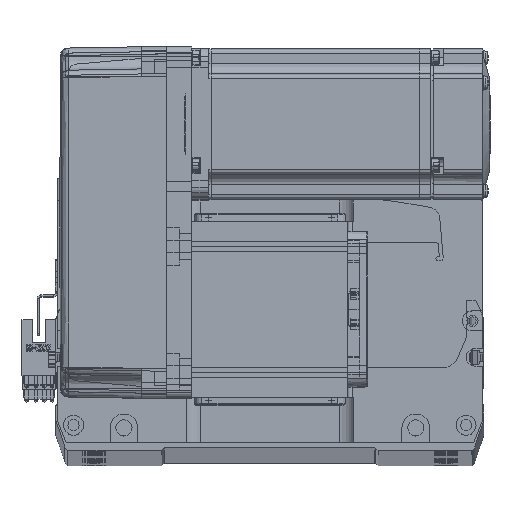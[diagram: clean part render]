
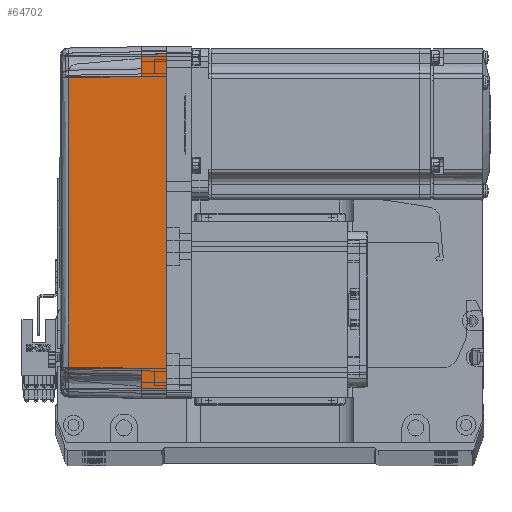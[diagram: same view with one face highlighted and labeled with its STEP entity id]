
A CAD part, top view. The second image highlights one B-rep face of the part: STEP entity #64702.
In plain terms, the highlighted planar face has unit normal (-0.018, 0, 1) as drawn and (0, 1, 0.017) by its records, which use the part's own axes.
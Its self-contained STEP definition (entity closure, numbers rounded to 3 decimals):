
#341 = ORIENTED_EDGE ( 'NONE', *, *, #64427, .F. ) ;
#818 = EDGE_CURVE ( 'NONE', #11578, #7593, #22248, .T. ) ;
#1826 = VERTEX_POINT ( 'NONE', #18968 ) ;
#3090 = CARTESIAN_POINT ( 'NONE',  ( 57.495, 35.32, 38.985 ) ) ;
#3742 = LINE ( 'NONE', #33053, #56070 ) ;
#5368 = EDGE_CURVE ( 'NONE', #11578, #45967, #15623, .T. ) ;
#6350 = VECTOR ( 'NONE', #46820, 1000. ) ;
#6586 = VERTEX_POINT ( 'NONE', #66704 ) ;
#7088 = VERTEX_POINT ( 'NONE', #23587 ) ;
#7593 = VERTEX_POINT ( 'NONE', #12230 ) ;
#8469 = LINE ( 'NONE', #41462, #32937 ) ;
#10851 = EDGE_CURVE ( 'NONE', #6586, #17374, #47219, .T. ) ;
#11578 = VERTEX_POINT ( 'NONE', #63095 ) ;
#11711 = EDGE_CURVE ( 'NONE', #7088, #6586, #3742, .T. ) ;
#12230 = CARTESIAN_POINT ( 'NONE',  ( 67., 36., 0. ) ) ;
#12622 = CARTESIAN_POINT ( 'NONE',  ( -66.826, 35.825, 10. ) ) ;
#15623 = LINE ( 'NONE', #20764, #54847 ) ;
#17374 = VERTEX_POINT ( 'NONE', #59699 ) ;
#17610 = EDGE_CURVE ( 'NONE', #45967, #7088, #52797, .T. ) ;
#18047 = PLANE ( 'NONE',  #49718 ) ;
#18271 = CARTESIAN_POINT ( 'NONE',  ( 70., 35.825, 10. ) ) ;
#18968 = CARTESIAN_POINT ( 'NONE',  ( 66.826, 35.825, 10. ) ) ;
#20764 = CARTESIAN_POINT ( 'NONE',  ( -67., 36., 0. ) ) ;
#21132 = CARTESIAN_POINT ( 'NONE',  ( -19.165, 35.316, 39.181 ) ) ;
#22248 = LINE ( 'NONE', #32218, #52688 ) ;
#23587 = CARTESIAN_POINT ( 'NONE',  ( -58., 35.825, 10. ) ) ;
#24916 = DIRECTION ( 'NONE',  ( 0.017, 0.017, -1. ) ) ;
#25391 = DIRECTION ( 'NONE',  ( 1., 0., 0. ) ) ;
#27178 = CARTESIAN_POINT ( 'NONE',  ( -57.495, 35.32, 38.985 ) ) ;
#28257 = LINE ( 'NONE', #46339, #6350 ) ;
#28582 = ORIENTED_EDGE ( 'NONE', *, *, #5368, .T. ) ;
#31231 = EDGE_LOOP ( 'NONE', ( #28582, #48329, #64219, #66311, #56728, #63833, #341, #31920 ) ) ;
#31552 = EDGE_CURVE ( 'NONE', #68801, #1826, #8469, .T. ) ;
#31920 = ORIENTED_EDGE ( 'NONE', *, *, #818, .F. ) ;
#32218 = CARTESIAN_POINT ( 'NONE',  ( 0., 36., 0. ) ) ;
#32937 = VECTOR ( 'NONE', #25391, 1000. ) ;
#33053 = CARTESIAN_POINT ( 'NONE',  ( -58., 35.825, 10. ) ) ;
#38747 = FACE_OUTER_BOUND ( 'NONE', #31231, .T. ) ;
#39714 = CARTESIAN_POINT ( 'NONE',  ( 70., 36., 0. ) ) ;
#41462 = CARTESIAN_POINT ( 'NONE',  ( 70., 35.825, 10. ) ) ;
#41634 = DIRECTION ( 'NONE',  ( 1., 0., 0. ) ) ;
#43464 = DIRECTION ( 'NONE',  ( 1., 0., 0. ) ) ;
#45967 = VERTEX_POINT ( 'NONE', #12622 ) ;
#46339 = CARTESIAN_POINT ( 'NONE',  ( 67.001, 36.001, -0.052 ) ) ;
#46820 = DIRECTION ( 'NONE',  ( -0.017, -0.017, 1. ) ) ;
#47219 = B_SPLINE_CURVE_WITH_KNOTS ( 'NONE', 3,
 ( #27178, #21132, #48877, #48637 ),
 .UNSPECIFIED., .F., .F.,
 ( 4, 4 ),
 ( 0., 1. ),
 .UNSPECIFIED. ) ;
#48329 = ORIENTED_EDGE ( 'NONE', *, *, #17610, .T. ) ;
#48637 = CARTESIAN_POINT ( 'NONE',  ( 57.495, 35.32, 38.985 ) ) ;
#48877 = CARTESIAN_POINT ( 'NONE',  ( 19.165, 35.316, 39.181 ) ) ;
#49062 = EDGE_CURVE ( 'NONE', #17374, #68801, #52449, .T. ) ;
#49718 = AXIS2_PLACEMENT_3D ( 'NONE', #39714, #57029, #68270 ) ;
#50681 = VECTOR ( 'NONE', #24916, 1000. ) ;
#52449 = LINE ( 'NONE', #3090, #50681 ) ;
#52688 = VECTOR ( 'NONE', #43464, 1000. ) ;
#52797 = LINE ( 'NONE', #18271, #56296 ) ;
#53634 = DIRECTION ( 'NONE',  ( 0.017, -0.017, 1. ) ) ;
#54770 = DIRECTION ( 'NONE',  ( 0.017, -0.017, 1. ) ) ;
#54847 = VECTOR ( 'NONE', #53634, 1000. ) ;
#56070 = VECTOR ( 'NONE', #54770, 1000. ) ;
#56296 = VECTOR ( 'NONE', #41634, 1000. ) ;
#56728 = ORIENTED_EDGE ( 'NONE', *, *, #49062, .T. ) ;
#57029 = DIRECTION ( 'NONE',  ( 0., 1., 0.017 ) ) ;
#59699 = CARTESIAN_POINT ( 'NONE',  ( 57.495, 35.32, 38.985 ) ) ;
#63095 = CARTESIAN_POINT ( 'NONE',  ( -67., 36., 0. ) ) ;
#63833 = ORIENTED_EDGE ( 'NONE', *, *, #31552, .T. ) ;
#64219 = ORIENTED_EDGE ( 'NONE', *, *, #11711, .T. ) ;
#64427 = EDGE_CURVE ( 'NONE', #7593, #1826, #28257, .T. ) ;
#64702 = ADVANCED_FACE ( 'NONE', ( #38747 ), #18047, .T. ) ;
#66311 = ORIENTED_EDGE ( 'NONE', *, *, #10851, .T. ) ;
#66704 = CARTESIAN_POINT ( 'NONE',  ( -57.495, 35.32, 38.985 ) ) ;
#68270 = DIRECTION ( 'NONE',  ( 0., -0.017, 1. ) ) ;
#68801 = VERTEX_POINT ( 'NONE', #72387 ) ;
#72387 = CARTESIAN_POINT ( 'NONE',  ( 58., 35.825, 10. ) ) ;
